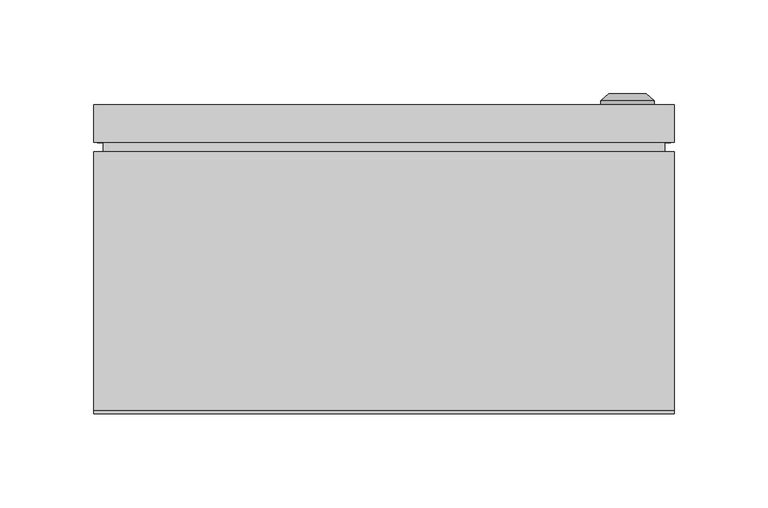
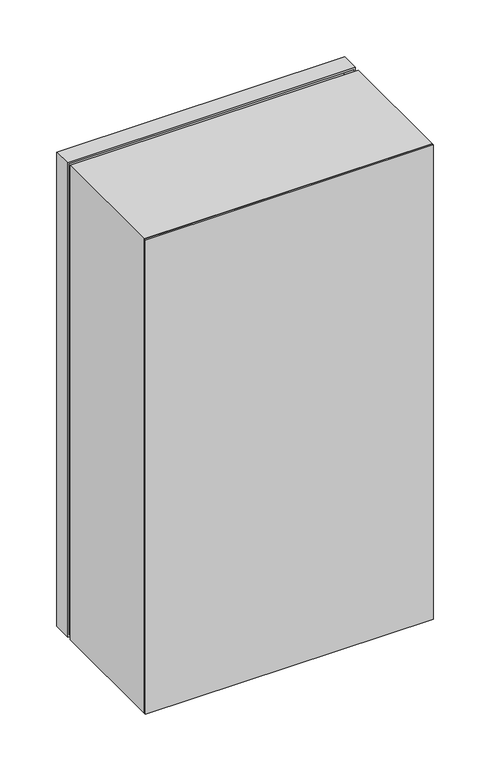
"""IFC4 building model written with IfcOpenShell, lengths in millimetres: proxy geometry, ЩУ-3ф_1-0-12_IP66 : ЩУ-3ф/1-0-12_IP66."""

from ifc_helpers import new_model, si_unit, point, frame, frame_2d, origin, origin_with_axes, place, context, project, spatial, polyline, circle_curve, trimmed, segment, composite_curve, outline, extrude, source, transform, mapped, element, save
from ifc_brep_helpers import plane_surface, cylinder_surface, revolved_surface, advanced_brep


def electrical_equipment_b12d2e99(model_context):
    return source(origin(), model_context, "Body", "SolidModel", [
        extrude(outline(composite_curve([segment(trimmed(circle_curve(frame_2d((317.0, 13.0)), 5.0), [point((312.0, 13.0))], [point((317.0, 18.0))], False, "CARTESIAN"), True, "CONTINUOUS"), segment(polyline([(317.0, 18.0), (377.0, 18.0)]), True, "CONTINUOUS"), segment(trimmed(circle_curve(frame_2d((377.0, 13.0)), 5.0), [point((377.0, 18.0))], [point((382.0, 13.0))], False, "CARTESIAN"), True, "CONTINUOUS"), segment(polyline([(382.0, 13.0), (382.0, -87.0)]), True, "CONTINUOUS"), segment(trimmed(circle_curve(frame_2d((377.0, -87.0)), 5.0), [point((382.0, -87.0))], [point((377.0, -92.0))], False, "CARTESIAN"), True, "CONTINUOUS"), segment(polyline([(377.0, -92.0), (317.0, -92.0)]), True, "CONTINUOUS"), segment(trimmed(circle_curve(frame_2d((317.0, -87.0)), 5.0), [point((317.0, -92.0))], [point((312.0, -87.0))], False, "CARTESIAN"), True, "CONTINUOUS"), segment(polyline([(312.0, -87.0), (312.0, 13.0)]), True, "CONTINUOUS")], self_intersect=False)), frame((0.0, 163.0, 0.0), z_axis=(0.0, 1.0, 0.0), x_axis=(0.0, 0.0, 1.0)), (0.0, 0.0, 1.0), 2.0),
        advanced_brep(
        [(-155.0, 145.0, 540.0), (-155.0, 145.0, 0.0), (155.0, 145.0, 0.0), (155.0, 145.0, 540.0), (-153.0033905, 145.0, 2.0), (-153.0033905, 145.0, 538.0), (152.9966095, 145.0, 538.0), (152.9966095, 145.0, 2.0), (-155.0, 165.0, 540.0), (155.0, 165.0, 540.0), (155.0, 165.0, 0.0), (-155.0, 165.0, 0.0), (-87.0, 165.0, 382.0), (-92.0, 165.0, 377.0), (-92.0, 165.0, 317.0), (-87.0, 165.0, 312.0), (13.0, 165.0, 312.0), (18.0, 165.0, 317.0), (18.0, 165.0, 377.0), (13.0, 165.0, 382.0), (-153.0033905, 163.0, 538.0), (-153.0033905, 163.0, 2.0), (152.9966095, 163.0, 2.0), (152.9966095, 163.0, 538.0), (-87.0, 163.0, 382.0), (13.0, 163.0, 382.0), (18.0, 163.0, 377.0), (18.0, 163.0, 317.0), (13.0, 163.0, 312.0), (-87.0, 163.0, 312.0), (-92.0, 163.0, 317.0), (-92.0, 163.0, 377.0)],
        [
            (0, 1),
            (1, 2),
            (2, 3),
            (3, 0),
            (4, 5),
            (5, 6),
            (6, 7),
            (7, 4),
            (8, 9),
            (9, 10),
            (10, 11),
            (11, 8),
            (12, 13, circle_curve(frame((-87.0, 165.0, 377.0), z_axis=(0.0, -1.0, 0.0), x_axis=(1.0, 0.0, 0.0)), 5.0)),
            (13, 14),
            (14, 15, circle_curve(frame((-87.0, 165.0, 317.0), z_axis=(0.0, -1.0, 0.0), x_axis=(1.0, 0.0, 0.0)), 5.0)),
            (15, 16),
            (16, 17, circle_curve(frame((13.0, 165.0, 317.0), z_axis=(0.0, -1.0, 0.0), x_axis=(1.0, 0.0, 0.0)), 5.0)),
            (17, 18),
            (18, 19, circle_curve(frame((13.0, 165.0, 377.0), z_axis=(0.0, -1.0, 0.0), x_axis=(1.0, 0.0, 0.0)), 5.0)),
            (19, 12),
            (0, 8),
            (11, 1),
            (10, 2),
            (9, 3),
            (20, 21),
            (21, 22),
            (22, 23),
            (23, 20),
            (24, 25),
            (25, 26, circle_curve(frame((13.0, 163.0, 377.0), z_axis=(0.0, 1.0, 0.0), x_axis=(1.0, 0.0, 0.0)), 5.0)),
            (26, 27),
            (27, 28, circle_curve(frame((13.0, 163.0, 317.0), z_axis=(0.0, 1.0, 0.0), x_axis=(1.0, 0.0, 0.0)), 5.0)),
            (28, 29),
            (29, 30, circle_curve(frame((-87.0, 163.0, 317.0), z_axis=(0.0, 1.0, 0.0), x_axis=(1.0, 0.0, 0.0)), 5.0)),
            (30, 31),
            (31, 24, circle_curve(frame((-87.0, 163.0, 377.0), z_axis=(0.0, 1.0, 0.0), x_axis=(1.0, 0.0, 0.0)), 5.0)),
            (20, 5),
            (4, 21),
            (7, 22),
            (6, 23),
            (19, 25),
            (24, 12),
            (18, 26),
            (17, 27),
            (16, 28),
            (15, 29),
            (14, 30),
            (13, 31),
        ],
        [
            plane_surface(frame((-155.0, 145.0, 540.0), z_axis=(0.0, -1.0, 0.0), x_axis=(0.0, 0.0, -1.0))),
            plane_surface(frame((-155.0, 165.0, 540.0), z_axis=(0.0, 1.0, 0.0), x_axis=(0.0, 0.0, 1.0))),
            plane_surface(frame((-155.0, 145.0, 540.0), z_axis=(-1.0, 0.0, 0.0), x_axis=(0.0, 1.0, 0.0))),
            plane_surface(frame((-155.0, 145.0, 0.0), z_axis=(0.0, 0.0, -1.0), x_axis=(0.0, 1.0, 0.0))),
            plane_surface(frame((155.0, 145.0, 0.0), z_axis=(1.0, 0.0, 0.0), x_axis=(0.0, 1.0, 0.0))),
            plane_surface(frame((155.0, 145.0, 540.0), z_axis=(0.0, 0.0, 1.0), x_axis=(0.0, 1.0, 0.0))),
            plane_surface(frame((-153.0033905, 163.0, 538.0), z_axis=(0.0, -1.0, 0.0), x_axis=(0.0, 0.0, 1.0))),
            plane_surface(frame((-153.0033905, 145.0, 538.0), z_axis=(1.0, 0.0, 0.0), x_axis=(0.0, 1.0, 0.0))),
            plane_surface(frame((-153.0033905, 145.0, 2.0), z_axis=(0.0, 0.0, 1.0), x_axis=(0.0, 1.0, 0.0))),
            plane_surface(frame((152.9966095, 145.0, 2.0), z_axis=(-1.0, 0.0, 0.0), x_axis=(0.0, 1.0, 0.0))),
            plane_surface(frame((152.9966095, 145.0, 538.0), z_axis=(0.0, 0.0, -1.0), x_axis=(0.0, 1.0, 0.0))),
            plane_surface(frame((-87.0, 145.0, 382.0), z_axis=(0.0, 0.0, -1.0), x_axis=(0.0, 1.0, 0.0))),
            revolved_surface(polyline([(18.0, 165.0, 377.0), (18.0, 163.0, 377.0)]), (13.0, 0.0, 377.0), (0.0, 1.0, 0.0)),
            plane_surface(frame((18.0, 145.0, 377.0), z_axis=(-1.0, 0.0, 0.0), x_axis=(0.0, 1.0, 0.0))),
            revolved_surface(polyline([(18.0, 165.0, 317.0), (18.0, 163.0, 317.0)]), (13.0, 0.0, 317.0), (0.0, 1.0, 0.0)),
            plane_surface(frame((13.0, 145.0, 312.0), z_axis=(0.0, 0.0, 1.0), x_axis=(0.0, 1.0, 0.0))),
            revolved_surface(polyline([(-82.0, 165.0, 317.0), (-82.0, 163.0, 317.0)]), (-87.0, 0.0, 317.0), (0.0, 1.0, 0.0)),
            plane_surface(frame((-92.0, 145.0, 317.0), z_axis=(1.0, 0.0, 0.0), x_axis=(0.0, 1.0, 0.0))),
            revolved_surface(polyline([(-82.0, 165.0, 377.0), (-82.0, 163.0, 377.0)]), (-87.0, 0.0, 377.0), (0.0, 1.0, 0.0)),
        ],
        [
            (0, [[1, 2, 3, 4], [5, 6, 7, 8]]),
            (1, [[9, 10, 11, 12], [13, 14, 15, 16, 17, 18, 19, 20]]),
            (2, [[-1, 21, -12, 22]]),
            (3, [[-2, -22, -11, 23]]),
            (4, [[-3, -23, -10, 24]]),
            (5, [[-4, -24, -9, -21]]),
            (6, [[25, 26, 27, 28], [29, 30, 31, 32, 33, 34, 35, 36]]),
            (7, [[-25, 37, -5, 38]]),
            (8, [[-26, -38, -8, 39]]),
            (9, [[-27, -39, -7, 40]]),
            (10, [[-28, -40, -6, -37]]),
            (11, [[-20, 41, -29, 42]]),
            (12, [[-19, 43, -30, -41]]),
            (13, [[-18, 44, -31, -43]]),
            (14, [[-17, 45, -32, -44]]),
            (15, [[-16, 46, -33, -45]]),
            (16, [[-15, 47, -34, -46]]),
            (17, [[-14, 48, -35, -47]]),
            (18, [[-13, -42, -36, -48]]),
        ],
    ),
        extrude(outline(polyline([(540.0, -155.0033905), (0.0, -155.0033905), (0.0, 154.9966095), (540.0, 154.9966095), (540.0, -155.0033905)]), holes=[polyline([(515.0, -125.0033905), (515.0, 129.9966095), (25.0, 129.9966095), (25.0, -125.0033905), (515.0, -125.0033905)])]), frame((0.0, 2.0, 0.0), z_axis=(0.0, 1.0, 0.0), x_axis=(0.0, 0.0, 1.0)), (0.0, 0.0, 1.0), 138.0),
        extrude(outline(polyline([(155.0, 0.0), (-155.0, 0.0), (-155.0, 2.0), (155.0, 2.0), (155.0, 0.0)])), origin_with_axes(), (0.0, 0.0, 1.0), 540.0),
        extrude(outline(polyline([(150.0, 140.0), (-150.0, 140.0), (-150.0, 145.0), (150.0, 145.0), (150.0, 140.0)])), frame((0.0, 0.0, 5.0), z_axis=(0.0, 0.0, 1.0), x_axis=(1.0, 0.0, 0.0)), (0.0, 0.0, 1.0), 530.0),
        advanced_brep(
        [(115.669873, 165.0, 270.0), (144.330127, 165.0, 270.0), (130.0, 165.0, 270.0), (115.669873, 167.366592, 270.0), (144.330127, 167.366592, 270.0), (120.0, 171.0, 270.0), (140.0, 171.0, 270.0), (128.1080471, 171.0, 270.0), (131.8919529, 171.0, 270.0), (128.1080471, 169.9822294, 270.0), (131.8919529, 169.9822294, 270.0), (130.0, 169.9822294, 270.0)],
        [
            (0, 1, circle_curve(frame((130.0, 165.0, 270.0), z_axis=(0.0, -1.0, 0.0), x_axis=(1.0, 0.0, 0.0)), 14.330127)),
            (1, 2),
            (2, 0),
            (1, 0, circle_curve(frame((130.0, 165.0, 270.0), z_axis=(0.0, -1.0, 0.0), x_axis=(1.0, 0.0, 0.0)), 14.330127)),
            (3, 4, circle_curve(frame((130.0, 167.366592, 270.0), z_axis=(0.0, -1.0, 0.0), x_axis=(1.0, 0.0, 0.0)), 14.330127)),
            (4, 1),
            (0, 3),
            (4, 3, circle_curve(frame((130.0, 167.366592, 270.0), z_axis=(0.0, -1.0, 0.0), x_axis=(1.0, 0.0, 0.0)), 14.330127)),
            (5, 6, circle_curve(frame((130.0, 171.0, 270.0), z_axis=(0.0, -1.0, 0.0), x_axis=(1.0, 0.0, 0.0)), 10.0)),
            (6, 4),
            (3, 5),
            (6, 5, circle_curve(frame((130.0, 171.0, 270.0), z_axis=(0.0, -1.0, 0.0), x_axis=(1.0, 0.0, 0.0)), 10.0)),
            (7, 8, circle_curve(frame((130.0, 171.0, 270.0), z_axis=(0.0, -1.0, 0.0), x_axis=(1.0, 0.0, 0.0)), 1.8919529)),
            (8, 6),
            (5, 7),
            (8, 7, circle_curve(frame((130.0, 171.0, 270.0), z_axis=(0.0, -1.0, 0.0), x_axis=(1.0, 0.0, 0.0)), 1.8919529)),
            (9, 10, circle_curve(frame((130.0, 169.9822294, 270.0), z_axis=(0.0, -1.0, 0.0), x_axis=(1.0, 0.0, 0.0)), 1.8919529)),
            (10, 8),
            (7, 9),
            (10, 9, circle_curve(frame((130.0, 169.9822294, 270.0), z_axis=(0.0, -1.0, 0.0), x_axis=(1.0, 0.0, 0.0)), 1.8919529)),
            (11, 10),
            (9, 11),
        ],
        [
            plane_surface(frame((130.0, 165.0, 270.0), z_axis=(0.0, -1.0, 0.0), x_axis=(1.0, 0.0, 0.0))),
            cylinder_surface(frame((130.0, 178.1348851, 270.0), z_axis=(0.0, 1.0, 0.0), x_axis=(1.0, 0.0, 0.0)), 14.330127),
            revolved_surface(polyline([(144.330127, 167.366592, 270.0), (140.0, 171.0, 270.0)]), (130.0, 178.1348851, 270.0), (0.0, 1.0, 0.0)),
            plane_surface(frame((130.0, 171.0, 270.0), z_axis=(0.0, 1.0, 0.0), x_axis=(1.0, 0.0, 0.0))),
            revolved_surface(polyline([(131.8919529, 171.0, 270.0), (131.8919529, 169.9822294, 270.0)]), (130.0, 178.1348851, 270.0), (0.0, 1.0, 0.0)),
            plane_surface(frame((130.0, 169.9822294, 270.0), z_axis=(0.0, 1.0, 0.0), x_axis=(1.0, 0.0, 0.0))),
        ],
        [
            (0, [[1, 2, 3]]),
            (0, [[4, -3, -2]]),
            (1, [[5, 6, -1, 7]]),
            (1, [[8, -7, -4, -6]]),
            (2, [[9, 10, -5, 11]]),
            (2, [[12, -11, -8, -10]]),
            (3, [[13, 14, -9, 15]]),
            (3, [[16, -15, -12, -14]]),
            (4, [[17, 18, -13, 19]]),
            (4, [[20, -19, -16, -18]]),
            (5, [[21, -17, 22]]),
            (5, [[-22, -20, -21]]),
        ],
    ),
    ])


if __name__ == "__main__":
    model = new_model("IFC4")
    model_context = context("Model", 3, world=origin())
    ifc_project = project(units=[si_unit("LENGTHUNIT", "METRE", prefix="MILLI")], contexts=[model_context])
    site = spatial("IfcSite", under=ifc_project)
    building = spatial("IfcBuilding", under=site)
    placement = place(None, origin())
    electrical_equipment_shape = electrical_equipment_b12d2e99(model_context)
    element("IfcBuildingElementProxy", 1, Name="ЩУ-3ф_1-0-12_IP66 : ЩУ-3ф/1-0-12_IP66", ObjectType="ЩУ-3ф_1-0-12_IP66 : ЩУ-3ф/1-0-12_IP66", at=placement, inside=building, context=model_context, shape_type="MappedRepresentation", body=[
        mapped(electrical_equipment_shape, transform((0.0, 0.0, 0.0), x_axis=(1.0, 0.0, 0.0), y_axis=(0.0, 1.0, 0.0), z_axis=(0.0, 0.0, 1.0))),
    ])
    save(model, "model.ifc")
